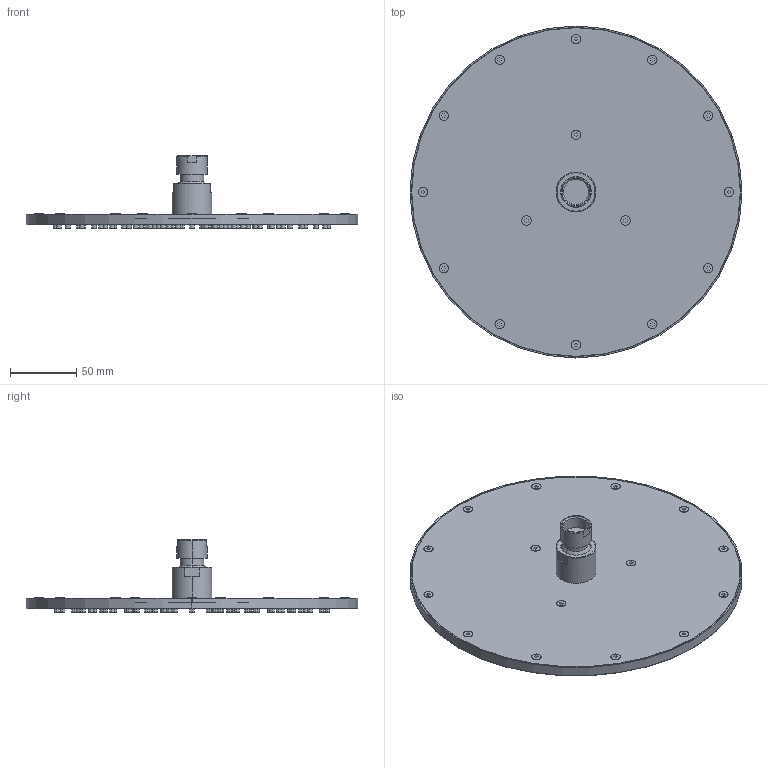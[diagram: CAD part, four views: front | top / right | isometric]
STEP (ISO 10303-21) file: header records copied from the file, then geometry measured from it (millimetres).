
FILE_DESCRIPTION (( 'STEP AP203' ), '1' );
FILE_NAME ('SFT25.STEP', '2024-03-04T15:44:13', ( '' ), ( '' ), 'SwSTEP 2.0', 'SolidWorks 2023', '' );
FILE_SCHEMA (( 'CONFIG_CONTROL_DESIGN' ));
Length unit declared in the file: millimetre
Products named in the file (1): SFT25
Bounding box: 250 x 250 x 54.5 mm (x, y, z)
Volume: 417778.7 mm3; surface area: 123569.7 mm2
Topology: 2 solids, 2 shells, 1220 faces, 2511 edges, 1671 vertices
Faces by surface type: cylinder 730, plane 479, torus 7, sphere 2, cone 2
Entity records: 33143 total; most frequent: DIRECTION 6422, CARTESIAN_POINT 5591, ORIENTED_EDGE 5012, AXIS2_PLACEMENT_3D 2703, EDGE_CURVE 2506, VERTEX_POINT 1668, EDGE_LOOP 1598, CIRCLE 1482
